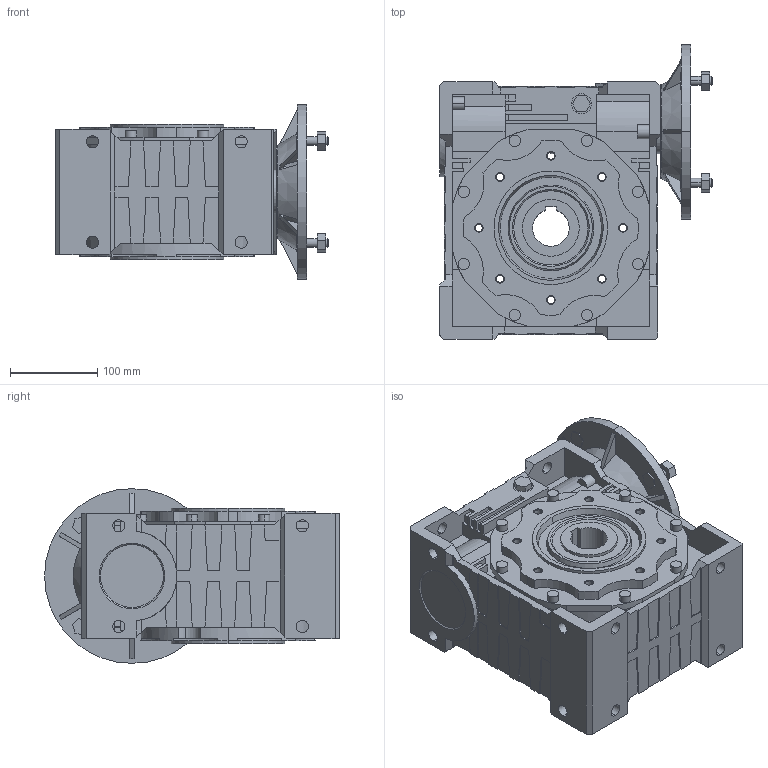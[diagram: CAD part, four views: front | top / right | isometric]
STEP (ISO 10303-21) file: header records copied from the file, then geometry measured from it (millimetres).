
FILE_DESCRIPTION (( 'STEP AP214' ), '1' );
FILE_NAME ('CMRV110_A09.STEP', '2019-08-01T13:56:45', ( '' ), ( '' ), 'SwSTEP 2.0', 'SolidWorks 2012', '' );
FILE_SCHEMA (( 'AUTOMOTIVE_DESIGN' ));
Length unit declared in the file: millimetre
Products named in the file (1): CMRV110_A09
Bounding box: 312.5 x 337.5 x 200 mm (x, y, z)
Surface area: 573645.3 mm2 (no closed solid volume)
Topology: 0 solids, 5 shells, 824 faces, 2382 edges, 1579 vertices
Faces by surface type: plane 535, cylinder 225, cone 64
Entity records: 36344 total; most frequent: CARTESIAN_POINT 5224, DIRECTION 4592, ORIENTED_EDGE 4491, EDGE_CURVE 2382, LINE 1654, VECTOR 1654, VERTEX_POINT 1579, AXIS2_PLACEMENT_3D 1469
